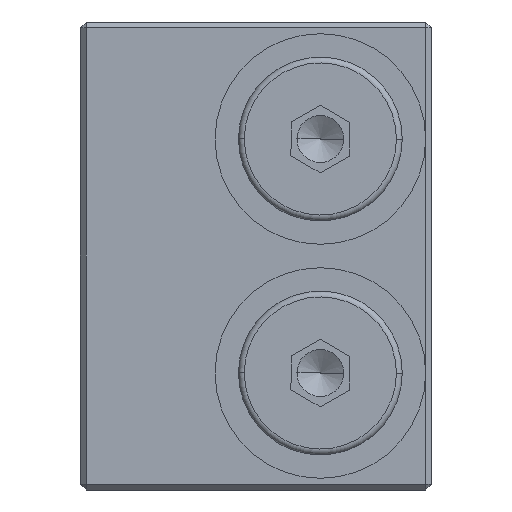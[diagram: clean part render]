
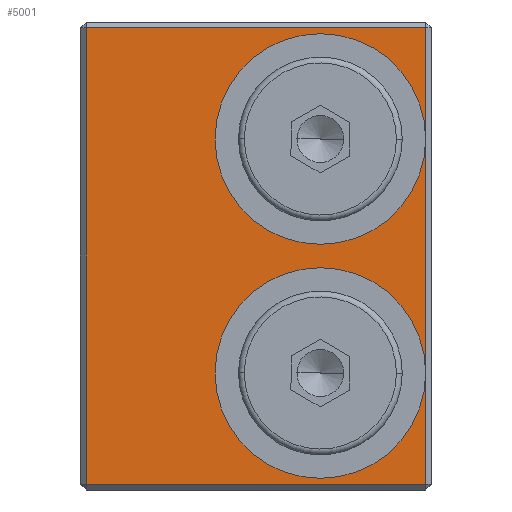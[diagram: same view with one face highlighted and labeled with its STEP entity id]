
A CAD part, left-side view. The second image highlights one B-rep face of the part: STEP entity #5001.
In plain terms, the highlighted planar face has unit normal (-1, 0, 0).
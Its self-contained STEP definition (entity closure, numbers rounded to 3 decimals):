
#145 = EDGE_CURVE ( 'NONE', #14981, #7250, #1057, .T. ) ;
#254 = VERTEX_POINT ( 'NONE', #5182 ) ;
#355 = ORIENTED_EDGE ( 'NONE', *, *, #8795, .F. ) ;
#571 = CARTESIAN_POINT ( 'NONE',  ( 0., -14.5, 20. ) ) ;
#1027 = CARTESIAN_POINT ( 'NONE',  ( 0., -5.5, 10. ) ) ;
#1053 = CARTESIAN_POINT ( 'NONE',  ( 0., -14.5, 20. ) ) ;
#1057 = CIRCLE ( 'NONE', #5842, 9. ) ;
#1242 = EDGE_CURVE ( 'NONE', #3253, #13521, #10941, .T. ) ;
#1326 = VECTOR ( 'NONE', #2920, 1000. ) ;
#1510 = EDGE_CURVE ( 'NONE', #9566, #13806, #13657, .T. ) ;
#1897 = VECTOR ( 'NONE', #13554, 1000. ) ;
#1913 = CARTESIAN_POINT ( 'NONE',  ( 0., -14.5, 20. ) ) ;
#2081 = EDGE_CURVE ( 'NONE', #7058, #9566, #2288, .T. ) ;
#2199 = CIRCLE ( 'NONE', #6348, 9. ) ;
#2213 = DIRECTION ( 'NONE',  ( 0., 0., 1. ) ) ;
#2288 = LINE ( 'NONE', #9021, #1897 ) ;
#2395 = DIRECTION ( 'NONE',  ( 0., 1., 0. ) ) ;
#2428 = ORIENTED_EDGE ( 'NONE', *, *, #11031, .F. ) ;
#2798 = EDGE_CURVE ( 'NONE', #8192, #3253, #10680, .T. ) ;
#2876 = AXIS2_PLACEMENT_3D ( 'NONE', #1027, #9142, #2213 ) ;
#2920 = DIRECTION ( 'NONE',  ( 0., 0., 1. ) ) ;
#3047 = CARTESIAN_POINT ( 'NONE',  ( 0., 14.5, -20. ) ) ;
#3108 = DIRECTION ( 'NONE',  ( 0., 0., 1. ) ) ;
#3253 = VERTEX_POINT ( 'NONE', #11847 ) ;
#3751 = CARTESIAN_POINT ( 'NONE',  ( 0., -5.5, -19. ) ) ;
#3796 = EDGE_CURVE ( 'NONE', #13521, #254, #8951, .T. ) ;
#3811 = FACE_OUTER_BOUND ( 'NONE', #10435, .T. ) ;
#3950 = LINE ( 'NONE', #10473, #7041 ) ;
#4210 = DIRECTION ( 'NONE',  ( 0., 0., -1. ) ) ;
#4315 = AXIS2_PLACEMENT_3D ( 'NONE', #6486, #14578, #7657 ) ;
#4377 = CARTESIAN_POINT ( 'NONE',  ( 0., 14.5, 19.5 ) ) ;
#4588 = PLANE ( 'NONE',  #10934 ) ;
#5001 = ADVANCED_FACE ( 'NONE', ( #3811 ), #4588, .T. ) ;
#5051 = ORIENTED_EDGE ( 'NONE', *, *, #7472, .F. ) ;
#5182 = CARTESIAN_POINT ( 'NONE',  ( 0., -14.5, 19.5 ) ) ;
#5781 = AXIS2_PLACEMENT_3D ( 'NONE', #6621, #14722, #7795 ) ;
#5803 = DIRECTION ( 'NONE',  ( -1., 0., 0. ) ) ;
#5842 = AXIS2_PLACEMENT_3D ( 'NONE', #13506, #6603, #14702 ) ;
#6189 = DIRECTION ( 'NONE',  ( -1., 0., 0. ) ) ;
#6328 = CARTESIAN_POINT ( 'NONE',  ( 0., -14.5, 10. ) ) ;
#6348 = AXIS2_PLACEMENT_3D ( 'NONE', #13115, #6189, #14297 ) ;
#6486 = CARTESIAN_POINT ( 'NONE',  ( 0., -5.5, 10. ) ) ;
#6514 = EDGE_CURVE ( 'NONE', #254, #7972, #3950, .T. ) ;
#6603 = DIRECTION ( 'NONE',  ( -1., 0., 0. ) ) ;
#6621 = CARTESIAN_POINT ( 'NONE',  ( 0., -5.5, -10. ) ) ;
#6720 = EDGE_CURVE ( 'NONE', #7972, #7058, #14787, .T. ) ;
#6869 = ORIENTED_EDGE ( 'NONE', *, *, #145, .F. ) ;
#7041 = VECTOR ( 'NONE', #2395, 1000. ) ;
#7058 = VERTEX_POINT ( 'NONE', #9513 ) ;
#7231 = CARTESIAN_POINT ( 'NONE',  ( 0., -5.5, 19. ) ) ;
#7250 = VERTEX_POINT ( 'NONE', #3751 ) ;
#7472 = EDGE_CURVE ( 'NONE', #13806, #14981, #14222, .T. ) ;
#7657 = DIRECTION ( 'NONE',  ( 0., 0., 1. ) ) ;
#7795 = DIRECTION ( 'NONE',  ( 0., 0., 1. ) ) ;
#7972 = VERTEX_POINT ( 'NONE', #4377 ) ;
#8047 = EDGE_CURVE ( 'NONE', #13806, #13521, #12761, .T. ) ;
#8192 = VERTEX_POINT ( 'NONE', #7231 ) ;
#8290 = ORIENTED_EDGE ( 'NONE', *, *, #2081, .T. ) ;
#8795 = EDGE_CURVE ( 'NONE', #7250, #13806, #2199, .T. ) ;
#8951 = LINE ( 'NONE', #1913, #11663 ) ;
#9021 = CARTESIAN_POINT ( 'NONE',  ( 0., -15., -19.5 ) ) ;
#9142 = DIRECTION ( 'NONE',  ( -1., 0., 0. ) ) ;
#9171 = DIRECTION ( 'NONE',  ( 0., 0., 1. ) ) ;
#9328 = VECTOR ( 'NONE', #9171, 1000. ) ;
#9372 = DIRECTION ( 'NONE',  ( 0., 0., 1. ) ) ;
#9513 = CARTESIAN_POINT ( 'NONE',  ( 0., 14.5, -19.5 ) ) ;
#9566 = VERTEX_POINT ( 'NONE', #11162 ) ;
#9978 = AXIS2_PLACEMENT_3D ( 'NONE', #11682, #10507, #9372 ) ;
#10418 = ORIENTED_EDGE ( 'NONE', *, *, #3796, .T. ) ;
#10435 = EDGE_LOOP ( 'NONE', ( #5051, #11591, #13272, #13711, #2428, #10418, #13651, #15019, #8290, #14185, #355, #6869 ) ) ;
#10473 = CARTESIAN_POINT ( 'NONE',  ( 0., 15., 19.5 ) ) ;
#10507 = DIRECTION ( 'NONE',  ( -1., 0., 0. ) ) ;
#10680 = CIRCLE ( 'NONE', #4315, 9. ) ;
#10934 = AXIS2_PLACEMENT_3D ( 'NONE', #12729, #5803, #13897 ) ;
#10941 = CIRCLE ( 'NONE', #9978, 9. ) ;
#11031 = EDGE_CURVE ( 'NONE', #13521, #8192, #13703, .T. ) ;
#11162 = CARTESIAN_POINT ( 'NONE',  ( 0., -14.5, -19.5 ) ) ;
#11591 = ORIENTED_EDGE ( 'NONE', *, *, #8047, .T. ) ;
#11663 = VECTOR ( 'NONE', #3108, 1000. ) ;
#11682 = CARTESIAN_POINT ( 'NONE',  ( 0., -5.5, 10. ) ) ;
#11696 = VECTOR ( 'NONE', #4210, 1000. ) ;
#11847 = CARTESIAN_POINT ( 'NONE',  ( 0., -5.5, 1. ) ) ;
#12232 = CARTESIAN_POINT ( 'NONE',  ( 0., -14.5, -10. ) ) ;
#12729 = CARTESIAN_POINT ( 'NONE',  ( 0., 15., -20. ) ) ;
#12761 = LINE ( 'NONE', #1053, #9328 ) ;
#13115 = CARTESIAN_POINT ( 'NONE',  ( 0., -5.5, -10. ) ) ;
#13272 = ORIENTED_EDGE ( 'NONE', *, *, #1242, .F. ) ;
#13506 = CARTESIAN_POINT ( 'NONE',  ( 0., -5.5, -10. ) ) ;
#13521 = VERTEX_POINT ( 'NONE', #6328 ) ;
#13554 = DIRECTION ( 'NONE',  ( 0., -1., 0. ) ) ;
#13651 = ORIENTED_EDGE ( 'NONE', *, *, #6514, .T. ) ;
#13657 = LINE ( 'NONE', #571, #1326 ) ;
#13703 = CIRCLE ( 'NONE', #2876, 9. ) ;
#13711 = ORIENTED_EDGE ( 'NONE', *, *, #2798, .F. ) ;
#13806 = VERTEX_POINT ( 'NONE', #12232 ) ;
#13897 = DIRECTION ( 'NONE',  ( 0., 0., 1. ) ) ;
#14185 = ORIENTED_EDGE ( 'NONE', *, *, #1510, .T. ) ;
#14222 = CIRCLE ( 'NONE', #5781, 9. ) ;
#14297 = DIRECTION ( 'NONE',  ( 0., 0., 1. ) ) ;
#14573 = CARTESIAN_POINT ( 'NONE',  ( 0., -5.5, -1. ) ) ;
#14578 = DIRECTION ( 'NONE',  ( -1., 0., 0. ) ) ;
#14702 = DIRECTION ( 'NONE',  ( 0., 0., 1. ) ) ;
#14722 = DIRECTION ( 'NONE',  ( -1., 0., 0. ) ) ;
#14787 = LINE ( 'NONE', #3047, #11696 ) ;
#14981 = VERTEX_POINT ( 'NONE', #14573 ) ;
#15019 = ORIENTED_EDGE ( 'NONE', *, *, #6720, .T. ) ;
